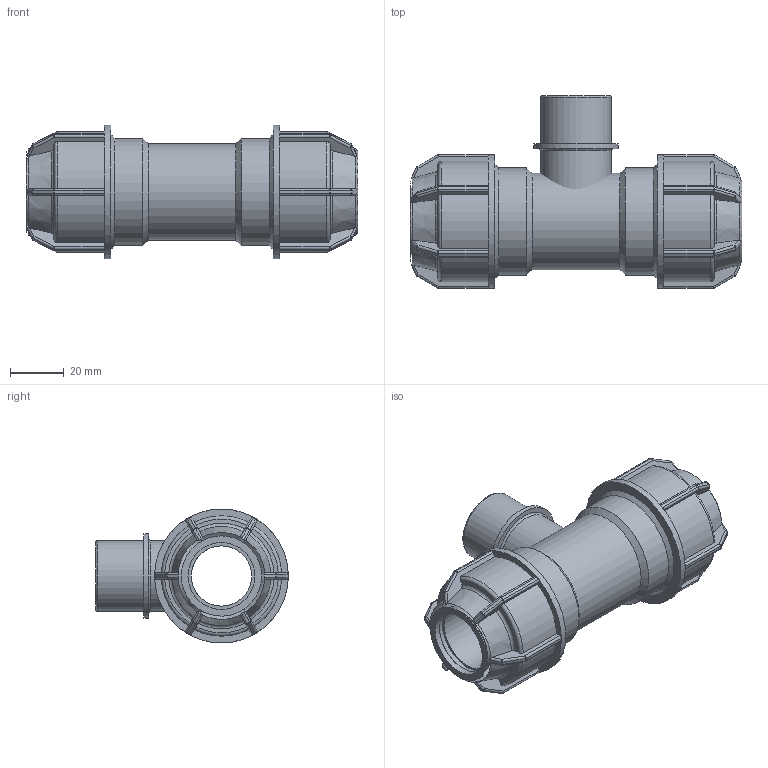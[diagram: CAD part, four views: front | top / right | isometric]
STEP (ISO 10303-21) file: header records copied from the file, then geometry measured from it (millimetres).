
FILE_DESCRIPTION(/* description */ ('PLASSON L.14 TEE MALE ADAPTOR (SILVER) 25-3/4"-25'),/* implementation_level */ '2;1');
FILE_NAME(/* name */ 'C:\Dropbox\KIMPROJECTS-Inventor\99-16-3568-Processing\Silver+MF ISRAEL\148400\148400025007.ipt.stp',/* time_stamp */ '2018-04-09T13:05:22+03:00',/* author */ ('KIM'),/* organization */ (''),/* preprocessor_version */ 'ST-DEVELOPER v15.6',/* originating_system */ 'Autodesk Inventor 2015',/* authorisation */ '');
FILE_SCHEMA (('AUTOMOTIVE_DESIGN { 1 0 10303 214 3 1 1 }'));
Length unit declared in the file: millimetre
Products named in the file (1): 148400025007
Bounding box: 124 x 72 x 50 mm (x, y, z)
Volume: 108484.2 mm3; surface area: 37449.4 mm2
Topology: 2 solids, 2 shells, 418 faces, 986 edges, 568 vertices
Faces by surface type: plane 198, cylinder 124, sphere 48, torus 30, cone 18
Full cylindrical faces by diameter (mm): 20 x2, 22.5 x1, 25 x4, 26.441 x2, 31.729 x1, 36 x1, 40 x2, 50 x2
Entity records: 12177 total; most frequent: CARTESIAN_POINT 3221, DIRECTION 1882, ORIENTED_EDGE 1834, EDGE_CURVE 917, AXIS2_PLACEMENT_3D 760, VERTEX_POINT 543, EDGE_LOOP 454, FACE_OUTER_BOUND 413
